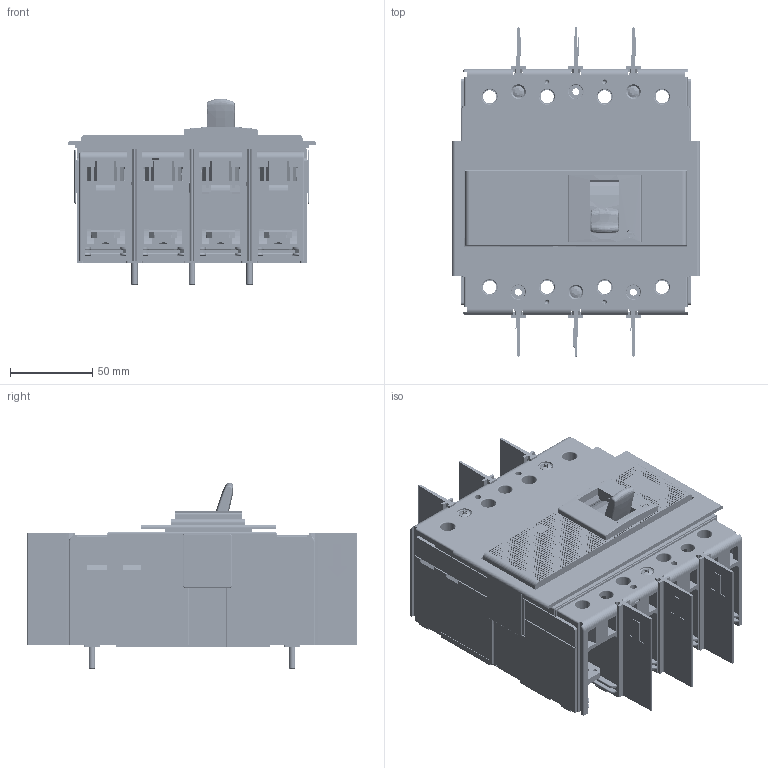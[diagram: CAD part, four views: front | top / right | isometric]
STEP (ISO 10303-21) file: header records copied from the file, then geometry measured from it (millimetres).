
FILE_DESCRIPTION((''),'2;1');
FILE_NAME('10000853571_ASM','2013-12-10T',('MSuresh'),(''),'PRO/ENGINEER BY PARAMETRIC TECHNOLOGY CORPORATION, 2010140','PRO/ENGINEER BY PARAMETRIC TECHNOLOGY CORPORATION, 2010140','');
FILE_SCHEMA(('CONFIG_CONTROL_DESIGN'));
Products named in the file (7): 10000670036; 10000670037; 10000497119; 10000427940; 10000670038_ASM; 10000853570; 10000853571_ASM
Assembly tree (13 placements, depth 3):
  10000853571_ASM
    10000670038_ASM
      10000670036
      10000670037
      10000497119  x3
      10000427940  x6
    10000853570
Bounding box: 151 x 200.62 x 113.48 mm (x, y, z)
Surface area: 453026.4 mm2 (no closed solid volume)
Topology: 0 solids, 35 shells, 16396 faces, 43492 edges, 28649 vertices
Faces by surface type: plane 13096, cylinder 2623, torus 262, cone 216, bspline 131, sphere 50, extrusion 18
Entity records: 568988 total; most frequent: CARTESIAN_POINT 164979, ORIENTED_EDGE 85237, DIRECTION 79102, EDGE_CURVE 42690, VECTOR 35738, LINE 35720, VERTEX_POINT 28201, AXIS2_PLACEMENT_3D 21682
